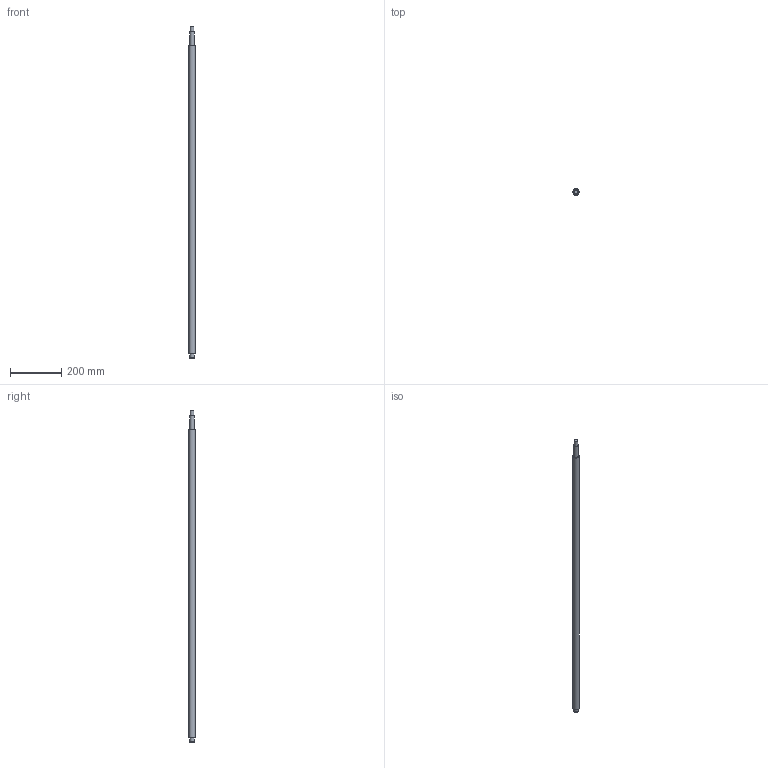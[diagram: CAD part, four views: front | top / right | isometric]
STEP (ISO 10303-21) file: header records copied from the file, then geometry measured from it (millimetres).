
FILE_DESCRIPTION(/* description */ (''),/* implementation_level */ '2;1');
FILE_NAME(/* name */ 'C:\Users\David Dillkötter\ownCloud\Kamp und Kötter\Artikel\_CAD-Dateien\CAD-Dateien-Shop\CAD-Dateien\Kugelumlaufspindel\2510\KUS2510x1300.stp',/* time_stamp */ '2020-09-03T09:47:18+02:00',/* author */ ('David Dillkötter'),/* organization */ (''),/* preprocessor_version */ 'ST-DEVELOPER v18.1',/* originating_system */ 'Autodesk Inventor 2021',/* authorisation */ '');
FILE_SCHEMA (('AUTOMOTIVE_DESIGN { 1 0 10303 214 3 1 1 }'));
Length unit declared in the file: millimetre
Products named in the file (1): KUS2510_Gewindespindel
Bounding box: 25 x 25 x 1300 mm (x, y, z)
Volume: 612673.1 mm3; surface area: 100638.2 mm2
Topology: 1 solids, 1 shells, 17 faces, 30 edges, 20 vertices
Faces by surface type: plane 7, cylinder 6, cone 4
Full cylindrical faces by diameter (mm): 15 x1, 16.2 x1, 17 x3, 25 x1
Entity records: 465 total; most frequent: DIRECTION 86, CARTESIAN_POINT 68, ORIENTED_EDGE 60, AXIS2_PLACEMENT_3D 38, EDGE_CURVE 30, EDGE_LOOP 22, CIRCLE 20, VERTEX_POINT 20
